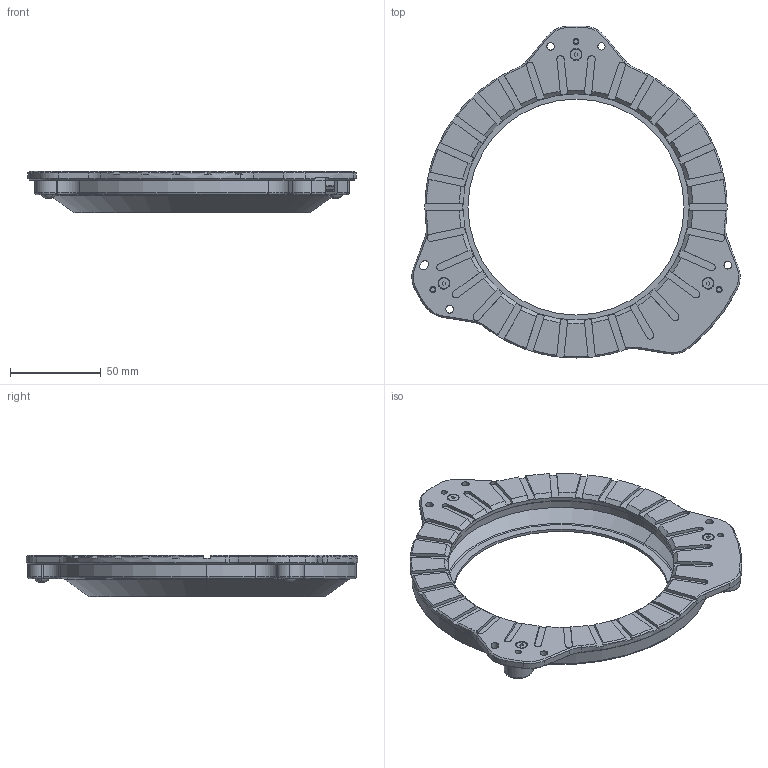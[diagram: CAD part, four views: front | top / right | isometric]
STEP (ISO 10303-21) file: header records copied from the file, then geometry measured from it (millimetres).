
FILE_DESCRIPTION (( 'STEP AP214' ), '1' );
FILE_NAME ('LOWANGLE130.STEP', '2012-08-13T08:23:48', ( ' ' ), ( '' ), 'SwSTEP 2.0', 'SolidWorks 2009', '' );
FILE_SCHEMA (( 'AUTOMOTIVE_DESIGN' ));
Length unit declared in the file: millimetre
Products named in the file (1): LOWANGLE130
Bounding box: 180.84 x 182.89 x 22.9 mm (x, y, z)
Volume: 97205.2 mm3; surface area: 111085.5 mm2
Topology: 10 solids, 10 shells, 659 faces, 1718 edges, 1085 vertices
Faces by surface type: cylinder 252, plane 246, cone 129, torus 26, sphere 6
Entity records: 28024 total; most frequent: CARTESIAN_POINT 4093, DIRECTION 3699, ORIENTED_EDGE 3412, EDGE_CURVE 1706, AXIS2_PLACEMENT_3D 1450, VERTEX_POINT 1085, VECTOR 799, LINE 799
